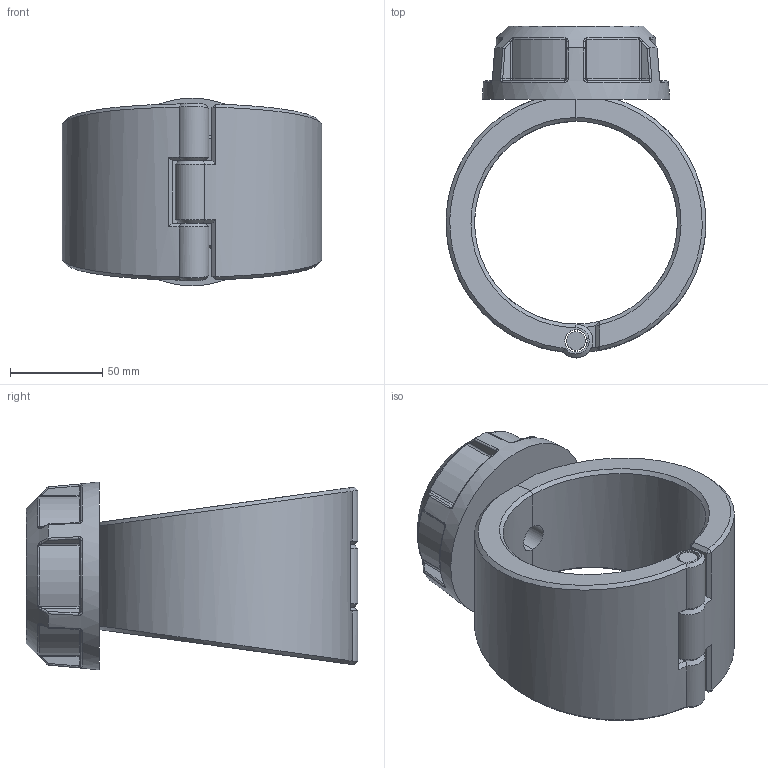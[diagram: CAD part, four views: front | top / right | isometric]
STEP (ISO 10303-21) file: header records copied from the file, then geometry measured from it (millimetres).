
FILE_DESCRIPTION(/* description */ ('Plassadle Threaded 110x1'''''),/* implementation_level */ '2;1');
FILE_NAME(/* name */ 'C:\Users\comp2\Dropbox\99-16-3568-Processing\Mechanical Fittings\16300\stp\163000110010.stp',/* time_stamp */ '2022-02-03T11:47:51+00:00',/* author */ ('comp2'),/* organization */ (''),/* preprocessor_version */ 'ST-DEVELOPER v17.2',/* originating_system */ 'Autodesk Inventor 2019',/* authorisation */ '');
FILE_SCHEMA (('AUTOMOTIVE_DESIGN { 1 0 10303 214 3 1 1 }'));
Length unit declared in the file: millimetre
Products named in the file (1): 163000110010
Bounding box: 141 x 180 x 102 mm (x, y, z)
Volume: 683718.5 mm3; surface area: 110974.1 mm2
Topology: 4 solids, 4 shells, 203 faces, 486 edges, 293 vertices
Faces by surface type: bspline 58, plane 53, cylinder 47, torus 18, cone 15, sphere 12
Full cylindrical faces by diameter (mm): 10.12 x1, 12.12 x3, 15.146 x1, 25.747 x1, 30.291 x1, 45.437 x1
Entity records: 8244 total; most frequent: CARTESIAN_POINT 3897, ORIENTED_EDGE 972, DIRECTION 781, EDGE_CURVE 486, AXIS2_PLACEMENT_3D 330, VERTEX_POINT 293, EDGE_LOOP 213, FACE_OUTER_BOUND 203
